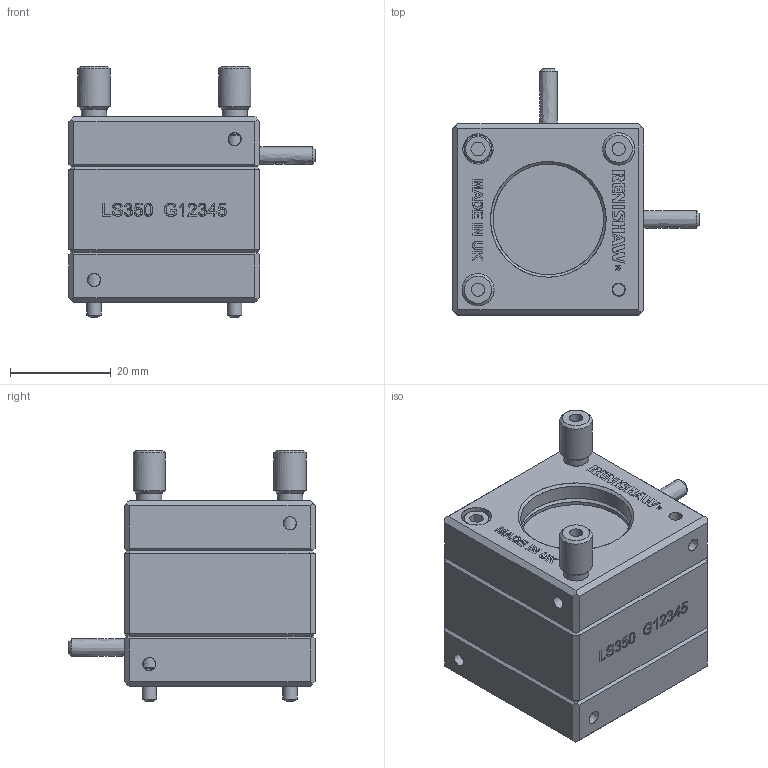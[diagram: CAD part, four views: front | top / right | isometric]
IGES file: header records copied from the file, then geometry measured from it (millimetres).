
Global section: file name: Y:\_LCPD Drawings\13.1 Lightweight Models\8003\LA-8003-3072  LASER STEERING OPTIC (LS350)\LA_8003_3072.igs; native system: NX V7.5; preprocessor: SIEMENS PLM Software NX 7.5; date: 20140716.131510; units: millimetre
Bounding box: 49 x 49 x 50 mm (x, y, z)
Surface area: 14958.2 mm2 (no closed solid volume)
Topology: 0 solids, 0 shells, 590 faces, 4046 edges, 3985 vertices
Faces by surface type: bspline 590
